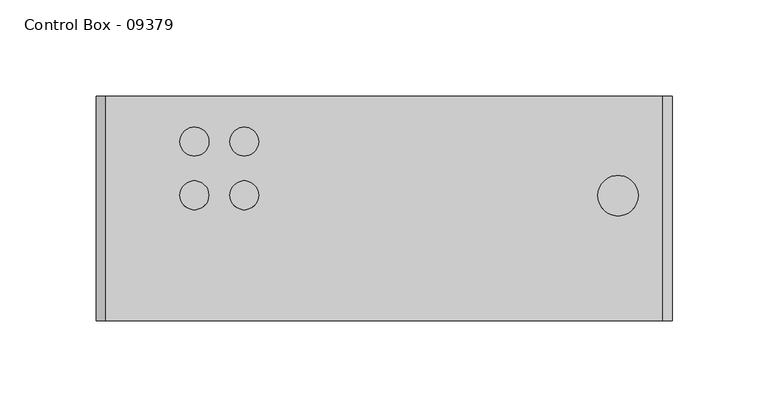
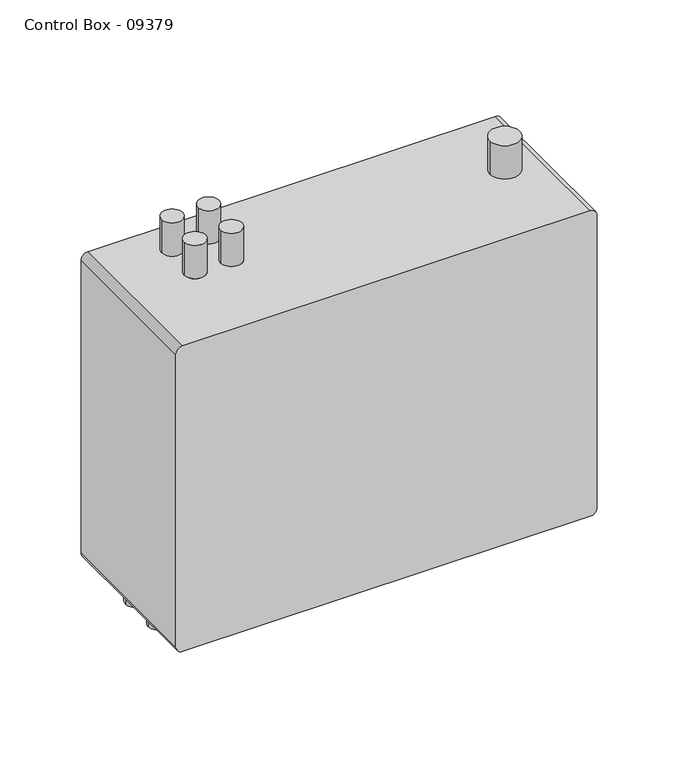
"""IFC4 building model written with IfcOpenShell, lengths in millimetres: flow terminal geometry, Plumbing Fixtures_Sensor_Thornthwaite_Rada Pulse Control Box : Control Box - 09379."""

from ifc_helpers import new_model, si_unit, frame, origin, place, context, project, spatial, circle_curve, source, transform, mapped, element, save
from ifc_brep_helpers import plane_surface, cylinder_surface, advanced_brep


def control_box_09379_0299824e(model_context):
    return source(origin(), model_context, "Body", "AdvancedBrep", [
        advanced_brep(
        [(145.0, -83.0, 1055.0), (-145.0, -83.0, 1055.0), (-150.0, -83.0, 1050.0), (-150.0, -83.0, 830.0), (-145.0, -83.0, 825.0), (145.0, -83.0, 825.0), (150.0, -83.0, 830.0), (150.0, -83.0, 1050.0), (145.0, 34.0, 1055.0), (150.0, 34.0, 1050.0), (150.0, 34.0, 830.0), (145.0, 34.0, 825.0), (-145.0, 34.0, 825.0), (-150.0, 34.0, 830.0), (-150.0, 34.0, 1050.0), (-145.0, 34.0, 1055.0), (-106.3147785, 10.266622, 1055.0), (-91.2251955, 10.266622, 1055.0), (-80.269987, 10.266622, 1055.0), (-65.269987, 10.266622, 1055.0), (-106.269987, -17.716321, 1055.0), (-91.269987, -17.716321, 1055.0), (-80.269987, -17.716321, 1055.0), (-65.269987, -17.716321, 1055.0), (111.37646, -17.899742, 1055.0), (132.37646, -17.899742, 1055.0), (-117.392513, 9.617491, 825.0), (-132.392513, 9.617491, 825.0), (-65.392513, 9.617491, 825.0), (-80.392513, 9.617491, 825.0), (-39.392513, 9.617491, 825.0), (-54.392513, 9.617491, 825.0), (-13.392513, 9.617491, 825.0), (-28.392513, 9.617491, 825.0), (-91.392513, 9.617491, 825.0), (-106.392513, 9.617491, 825.0), (-117.392513, -18.365452, 825.0), (-132.392513, -18.365452, 825.0), (-65.392513, -18.365452, 825.0), (-80.392513, -18.365452, 825.0), (-39.392513, -18.365452, 825.0), (-54.392513, -18.365452, 825.0), (-13.392513, -18.365452, 825.0), (-28.392513, -18.365452, 825.0), (-91.392513, -18.365452, 825.0), (-106.392513, -18.365452, 825.0), (131.907487, 9.617491, 825.0), (116.907487, 9.617491, 825.0), (79.907487, 9.617491, 825.0), (64.907487, 9.617491, 825.0), (53.907487, 9.617491, 825.0), (38.907487, 9.617491, 825.0), (27.907487, 9.617491, 825.0), (12.907487, 9.617491, 825.0), (105.907487, 9.617491, 825.0), (90.907487, 9.617491, 825.0), (131.907487, -18.365452, 825.0), (116.907487, -18.365452, 825.0), (79.907487, -18.365452, 825.0), (64.907487, -18.365452, 825.0), (53.907487, -18.365452, 825.0), (38.907487, -18.365452, 825.0), (27.907487, -18.365452, 825.0), (12.907487, -18.365452, 825.0), (105.907487, -18.365452, 825.0), (90.907487, -18.365452, 825.0), (-91.2251955, 10.266622, 1080.0), (-106.3147785, 10.266622, 1080.0), (-65.269987, 10.266622, 1080.0), (-80.269987, 10.266622, 1080.0), (-91.269987, -17.716321, 1080.0), (-106.269987, -17.716321, 1080.0), (-65.269987, -17.716321, 1080.0), (-80.269987, -17.716321, 1080.0), (132.37646, -17.899742, 1080.0), (111.37646, -17.899742, 1080.0), (-117.392513, 9.617491, 800.0), (-132.392513, 9.617491, 800.0), (-65.392513, 9.617491, 800.0), (-80.392513, 9.617491, 800.0), (-39.392513, 9.617491, 800.0), (-54.392513, 9.617491, 800.0), (-13.392513, 9.617491, 800.0), (-28.392513, 9.617491, 800.0), (-91.392513, 9.617491, 800.0), (-106.392513, 9.617491, 800.0), (-117.392513, -18.365452, 800.0), (-132.392513, -18.365452, 800.0), (-65.392513, -18.365452, 800.0), (-80.392513, -18.365452, 800.0), (-39.392513, -18.365452, 800.0), (-54.392513, -18.365452, 800.0), (-13.392513, -18.365452, 800.0), (-28.392513, -18.365452, 800.0), (-91.392513, -18.365452, 800.0), (-106.392513, -18.365452, 800.0), (131.907487, 9.617491, 800.0), (116.907487, 9.617491, 800.0), (79.907487, 9.617491, 800.0), (64.907487, 9.617491, 800.0), (53.907487, 9.617491, 800.0), (38.907487, 9.617491, 800.0), (27.907487, 9.617491, 800.0), (12.907487, 9.617491, 800.0), (105.907487, 9.617491, 800.0), (90.907487, 9.617491, 800.0), (131.907487, -18.365452, 800.0), (116.907487, -18.365452, 800.0), (79.907487, -18.365452, 800.0), (64.907487, -18.365452, 800.0), (53.907487, -18.365452, 800.0), (38.907487, -18.365452, 800.0), (27.907487, -18.365452, 800.0), (12.907487, -18.365452, 800.0), (105.907487, -18.365452, 800.0), (90.907487, -18.365452, 800.0)],
        [
            (0, 1),
            (1, 2, circle_curve(frame((-145.0, -83.0, 1050.0), z_axis=(0.0, -1.0, 0.0), x_axis=(-1.0, 0.0, 0.0)), 5.0)),
            (2, 3),
            (3, 4, circle_curve(frame((-145.0, -83.0, 830.0), z_axis=(0.0, -1.0, 0.0), x_axis=(-1.0, 0.0, 0.0)), 5.0)),
            (4, 5),
            (5, 6, circle_curve(frame((145.0, -83.0, 830.0), z_axis=(0.0, -1.0, 0.0), x_axis=(-1.0, 0.0, 0.0)), 5.0)),
            (6, 7),
            (7, 0, circle_curve(frame((145.0, -83.0, 1050.0), z_axis=(0.0, -1.0, 0.0), x_axis=(-1.0, 0.0, 0.0)), 5.0)),
            (8, 9, circle_curve(frame((145.0, 34.0, 1050.0), z_axis=(0.0, 1.0, 0.0), x_axis=(-1.0, 0.0, 0.0)), 5.0)),
            (9, 10),
            (10, 11, circle_curve(frame((145.0, 34.0, 830.0), z_axis=(0.0, 1.0, 0.0), x_axis=(-1.0, 0.0, 0.0)), 5.0)),
            (11, 12),
            (12, 13, circle_curve(frame((-145.0, 34.0, 830.0), z_axis=(0.0, 1.0, 0.0), x_axis=(-1.0, 0.0, 0.0)), 5.0)),
            (13, 14),
            (14, 15, circle_curve(frame((-145.0, 34.0, 1050.0), z_axis=(0.0, 1.0, 0.0), x_axis=(-1.0, 0.0, 0.0)), 5.0)),
            (15, 8),
            (0, 8),
            (15, 1),
            (16, 17, circle_curve(frame((-98.769987, 10.266622, 1055.0), z_axis=(0.0, 0.0, -1.0), x_axis=(-1.0, 0.0, 0.0)), 7.5447915)),
            (17, 16, circle_curve(frame((-98.769987, 10.266622, 1055.0), z_axis=(0.0, 0.0, -1.0), x_axis=(-1.0, 0.0, 0.0)), 7.5447915)),
            (18, 19, circle_curve(frame((-72.769987, 10.266622, 1055.0), z_axis=(0.0, 0.0, -1.0), x_axis=(-1.0, 0.0, 0.0)), 7.5)),
            (19, 18, circle_curve(frame((-72.769987, 10.266622, 1055.0), z_axis=(0.0, 0.0, -1.0), x_axis=(-1.0, 0.0, 0.0)), 7.5)),
            (20, 21, circle_curve(frame((-98.769987, -17.716321, 1055.0), z_axis=(0.0, 0.0, -1.0), x_axis=(-1.0, 0.0, 0.0)), 7.5)),
            (21, 20, circle_curve(frame((-98.769987, -17.716321, 1055.0), z_axis=(0.0, 0.0, -1.0), x_axis=(-1.0, 0.0, 0.0)), 7.5)),
            (22, 23, circle_curve(frame((-72.769987, -17.716321, 1055.0), z_axis=(0.0, 0.0, -1.0), x_axis=(-1.0, 0.0, 0.0)), 7.5)),
            (23, 22, circle_curve(frame((-72.769987, -17.716321, 1055.0), z_axis=(0.0, 0.0, -1.0), x_axis=(-1.0, 0.0, 0.0)), 7.5)),
            (24, 25, circle_curve(frame((121.87646, -17.899742, 1055.0), z_axis=(0.0, 0.0, -1.0), x_axis=(-1.0, 0.0, 0.0)), 10.5)),
            (25, 24, circle_curve(frame((121.87646, -17.899742, 1055.0), z_axis=(0.0, 0.0, -1.0), x_axis=(-1.0, 0.0, 0.0)), 10.5)),
            (14, 2),
            (13, 3),
            (12, 4),
            (11, 5),
            (26, 27, circle_curve(frame((-124.892513, 9.617491, 825.0), z_axis=(0.0, 0.0, 1.0), x_axis=(-1.0, 0.0, 0.0)), 7.5)),
            (27, 26, circle_curve(frame((-124.892513, 9.617491, 825.0), z_axis=(0.0, 0.0, 1.0), x_axis=(-1.0, 0.0, 0.0)), 7.5)),
            (28, 29, circle_curve(frame((-72.892513, 9.617491, 825.0), z_axis=(0.0, 0.0, 1.0), x_axis=(-1.0, 0.0, 0.0)), 7.5)),
            (29, 28, circle_curve(frame((-72.892513, 9.617491, 825.0), z_axis=(0.0, 0.0, 1.0), x_axis=(-1.0, 0.0, 0.0)), 7.5)),
            (30, 31, circle_curve(frame((-46.892513, 9.617491, 825.0), z_axis=(0.0, 0.0, 1.0), x_axis=(-1.0, 0.0, 0.0)), 7.5)),
            (31, 30, circle_curve(frame((-46.892513, 9.617491, 825.0), z_axis=(0.0, 0.0, 1.0), x_axis=(-1.0, 0.0, 0.0)), 7.5)),
            (32, 33, circle_curve(frame((-20.892513, 9.617491, 825.0), z_axis=(0.0, 0.0, 1.0), x_axis=(-1.0, 0.0, 0.0)), 7.5)),
            (33, 32, circle_curve(frame((-20.892513, 9.617491, 825.0), z_axis=(0.0, 0.0, 1.0), x_axis=(-1.0, 0.0, 0.0)), 7.5)),
            (34, 35, circle_curve(frame((-98.892513, 9.617491, 825.0), z_axis=(0.0, 0.0, 1.0), x_axis=(-1.0, 0.0, 0.0)), 7.5)),
            (35, 34, circle_curve(frame((-98.892513, 9.617491, 825.0), z_axis=(0.0, 0.0, 1.0), x_axis=(-1.0, 0.0, 0.0)), 7.5)),
            (36, 37, circle_curve(frame((-124.892513, -18.365452, 825.0), z_axis=(0.0, 0.0, 1.0), x_axis=(-1.0, 0.0, 0.0)), 7.5)),
            (37, 36, circle_curve(frame((-124.892513, -18.365452, 825.0), z_axis=(0.0, 0.0, 1.0), x_axis=(-1.0, 0.0, 0.0)), 7.5)),
            (38, 39, circle_curve(frame((-72.892513, -18.365452, 825.0), z_axis=(0.0, 0.0, 1.0), x_axis=(-1.0, 0.0, 0.0)), 7.5)),
            (39, 38, circle_curve(frame((-72.892513, -18.365452, 825.0), z_axis=(0.0, 0.0, 1.0), x_axis=(-1.0, 0.0, 0.0)), 7.5)),
            (40, 41, circle_curve(frame((-46.892513, -18.365452, 825.0), z_axis=(0.0, 0.0, 1.0), x_axis=(-1.0, 0.0, 0.0)), 7.5)),
            (41, 40, circle_curve(frame((-46.892513, -18.365452, 825.0), z_axis=(0.0, 0.0, 1.0), x_axis=(-1.0, 0.0, 0.0)), 7.5)),
            (42, 43, circle_curve(frame((-20.892513, -18.365452, 825.0), z_axis=(0.0, 0.0, 1.0), x_axis=(-1.0, 0.0, 0.0)), 7.5)),
            (43, 42, circle_curve(frame((-20.892513, -18.365452, 825.0), z_axis=(0.0, 0.0, 1.0), x_axis=(-1.0, 0.0, 0.0)), 7.5)),
            (44, 45, circle_curve(frame((-98.892513, -18.365452, 825.0), z_axis=(0.0, 0.0, 1.0), x_axis=(-1.0, 0.0, 0.0)), 7.5)),
            (45, 44, circle_curve(frame((-98.892513, -18.365452, 825.0), z_axis=(0.0, 0.0, 1.0), x_axis=(-1.0, 0.0, 0.0)), 7.5)),
            (46, 47, circle_curve(frame((124.407487, 9.617491, 825.0), z_axis=(0.0, 0.0, 1.0), x_axis=(-1.0, 0.0, 0.0)), 7.5)),
            (47, 46, circle_curve(frame((124.407487, 9.617491, 825.0), z_axis=(0.0, 0.0, 1.0), x_axis=(-1.0, 0.0, 0.0)), 7.5)),
            (48, 49, circle_curve(frame((72.407487, 9.617491, 825.0), z_axis=(0.0, 0.0, 1.0), x_axis=(-1.0, 0.0, 0.0)), 7.5)),
            (49, 48, circle_curve(frame((72.407487, 9.617491, 825.0), z_axis=(0.0, 0.0, 1.0), x_axis=(-1.0, 0.0, 0.0)), 7.5)),
            (50, 51, circle_curve(frame((46.407487, 9.617491, 825.0), z_axis=(0.0, 0.0, 1.0), x_axis=(-1.0, 0.0, 0.0)), 7.5)),
            (51, 50, circle_curve(frame((46.407487, 9.617491, 825.0), z_axis=(0.0, 0.0, 1.0), x_axis=(-1.0, 0.0, 0.0)), 7.5)),
            (52, 53, circle_curve(frame((20.407487, 9.617491, 825.0), z_axis=(0.0, 0.0, 1.0), x_axis=(-1.0, 0.0, 0.0)), 7.5)),
            (53, 52, circle_curve(frame((20.407487, 9.617491, 825.0), z_axis=(0.0, 0.0, 1.0), x_axis=(-1.0, 0.0, 0.0)), 7.5)),
            (54, 55, circle_curve(frame((98.407487, 9.617491, 825.0), z_axis=(0.0, 0.0, 1.0), x_axis=(-1.0, 0.0, 0.0)), 7.5)),
            (55, 54, circle_curve(frame((98.407487, 9.617491, 825.0), z_axis=(0.0, 0.0, 1.0), x_axis=(-1.0, 0.0, 0.0)), 7.5)),
            (56, 57, circle_curve(frame((124.407487, -18.365452, 825.0), z_axis=(0.0, 0.0, 1.0), x_axis=(-1.0, 0.0, 0.0)), 7.5)),
            (57, 56, circle_curve(frame((124.407487, -18.365452, 825.0), z_axis=(0.0, 0.0, 1.0), x_axis=(-1.0, 0.0, 0.0)), 7.5)),
            (58, 59, circle_curve(frame((72.407487, -18.365452, 825.0), z_axis=(0.0, 0.0, 1.0), x_axis=(-1.0, 0.0, 0.0)), 7.5)),
            (59, 58, circle_curve(frame((72.407487, -18.365452, 825.0), z_axis=(0.0, 0.0, 1.0), x_axis=(-1.0, 0.0, 0.0)), 7.5)),
            (60, 61, circle_curve(frame((46.407487, -18.365452, 825.0), z_axis=(0.0, 0.0, 1.0), x_axis=(-1.0, 0.0, 0.0)), 7.5)),
            (61, 60, circle_curve(frame((46.407487, -18.365452, 825.0), z_axis=(0.0, 0.0, 1.0), x_axis=(-1.0, 0.0, 0.0)), 7.5)),
            (62, 63, circle_curve(frame((20.407487, -18.365452, 825.0), z_axis=(0.0, 0.0, 1.0), x_axis=(-1.0, 0.0, 0.0)), 7.5)),
            (63, 62, circle_curve(frame((20.407487, -18.365452, 825.0), z_axis=(0.0, 0.0, 1.0), x_axis=(-1.0, 0.0, 0.0)), 7.5)),
            (64, 65, circle_curve(frame((98.407487, -18.365452, 825.0), z_axis=(0.0, 0.0, 1.0), x_axis=(-1.0, 0.0, 0.0)), 7.5)),
            (65, 64, circle_curve(frame((98.407487, -18.365452, 825.0), z_axis=(0.0, 0.0, 1.0), x_axis=(-1.0, 0.0, 0.0)), 7.5)),
            (10, 6),
            (9, 7),
            (66, 67, circle_curve(frame((-98.769987, 10.266622, 1080.0), z_axis=(0.0, 0.0, 1.0), x_axis=(-1.0, 0.0, 0.0)), 7.5447915)),
            (67, 66, circle_curve(frame((-98.769987, 10.266622, 1080.0), z_axis=(0.0, 0.0, 1.0), x_axis=(-1.0, 0.0, 0.0)), 7.5447915)),
            (68, 69, circle_curve(frame((-72.769987, 10.266622, 1080.0), z_axis=(0.0, 0.0, 1.0), x_axis=(-1.0, 0.0, 0.0)), 7.5)),
            (69, 68, circle_curve(frame((-72.769987, 10.266622, 1080.0), z_axis=(0.0, 0.0, 1.0), x_axis=(-1.0, 0.0, 0.0)), 7.5)),
            (70, 71, circle_curve(frame((-98.769987, -17.716321, 1080.0), z_axis=(0.0, 0.0, 1.0), x_axis=(-1.0, 0.0, 0.0)), 7.5)),
            (71, 70, circle_curve(frame((-98.769987, -17.716321, 1080.0), z_axis=(0.0, 0.0, 1.0), x_axis=(-1.0, 0.0, 0.0)), 7.5)),
            (72, 73, circle_curve(frame((-72.769987, -17.716321, 1080.0), z_axis=(0.0, 0.0, 1.0), x_axis=(-1.0, 0.0, 0.0)), 7.5)),
            (73, 72, circle_curve(frame((-72.769987, -17.716321, 1080.0), z_axis=(0.0, 0.0, 1.0), x_axis=(-1.0, 0.0, 0.0)), 7.5)),
            (74, 75, circle_curve(frame((121.87646, -17.899742, 1080.0), z_axis=(0.0, 0.0, 1.0), x_axis=(-1.0, 0.0, 0.0)), 10.5)),
            (75, 74, circle_curve(frame((121.87646, -17.899742, 1080.0), z_axis=(0.0, 0.0, 1.0), x_axis=(-1.0, 0.0, 0.0)), 10.5)),
            (66, 17),
            (16, 67),
            (68, 19),
            (18, 69),
            (70, 21),
            (20, 71),
            (72, 23),
            (22, 73),
            (74, 25),
            (24, 75),
            (76, 77, circle_curve(frame((-124.892513, 9.617491, 800.0), z_axis=(0.0, 0.0, -1.0), x_axis=(-1.0, 0.0, 0.0)), 7.5)),
            (77, 76, circle_curve(frame((-124.892513, 9.617491, 800.0), z_axis=(0.0, 0.0, -1.0), x_axis=(-1.0, 0.0, 0.0)), 7.5)),
            (78, 79, circle_curve(frame((-72.892513, 9.617491, 800.0), z_axis=(0.0, 0.0, -1.0), x_axis=(-1.0, 0.0, 0.0)), 7.5)),
            (79, 78, circle_curve(frame((-72.892513, 9.617491, 800.0), z_axis=(0.0, 0.0, -1.0), x_axis=(-1.0, 0.0, 0.0)), 7.5)),
            (80, 81, circle_curve(frame((-46.892513, 9.617491, 800.0), z_axis=(0.0, 0.0, -1.0), x_axis=(-1.0, 0.0, 0.0)), 7.5)),
            (81, 80, circle_curve(frame((-46.892513, 9.617491, 800.0), z_axis=(0.0, 0.0, -1.0), x_axis=(-1.0, 0.0, 0.0)), 7.5)),
            (82, 83, circle_curve(frame((-20.892513, 9.617491, 800.0), z_axis=(0.0, 0.0, -1.0), x_axis=(-1.0, 0.0, 0.0)), 7.5)),
            (83, 82, circle_curve(frame((-20.892513, 9.617491, 800.0), z_axis=(0.0, 0.0, -1.0), x_axis=(-1.0, 0.0, 0.0)), 7.5)),
            (84, 85, circle_curve(frame((-98.892513, 9.617491, 800.0), z_axis=(0.0, 0.0, -1.0), x_axis=(-1.0, 0.0, 0.0)), 7.5)),
            (85, 84, circle_curve(frame((-98.892513, 9.617491, 800.0), z_axis=(0.0, 0.0, -1.0), x_axis=(-1.0, 0.0, 0.0)), 7.5)),
            (86, 87, circle_curve(frame((-124.892513, -18.365452, 800.0), z_axis=(0.0, 0.0, -1.0), x_axis=(-1.0, 0.0, 0.0)), 7.5)),
            (87, 86, circle_curve(frame((-124.892513, -18.365452, 800.0), z_axis=(0.0, 0.0, -1.0), x_axis=(-1.0, 0.0, 0.0)), 7.5)),
            (88, 89, circle_curve(frame((-72.892513, -18.365452, 800.0), z_axis=(0.0, 0.0, -1.0), x_axis=(-1.0, 0.0, 0.0)), 7.5)),
            (89, 88, circle_curve(frame((-72.892513, -18.365452, 800.0), z_axis=(0.0, 0.0, -1.0), x_axis=(-1.0, 0.0, 0.0)), 7.5)),
            (90, 91, circle_curve(frame((-46.892513, -18.365452, 800.0), z_axis=(0.0, 0.0, -1.0), x_axis=(-1.0, 0.0, 0.0)), 7.5)),
            (91, 90, circle_curve(frame((-46.892513, -18.365452, 800.0), z_axis=(0.0, 0.0, -1.0), x_axis=(-1.0, 0.0, 0.0)), 7.5)),
            (92, 93, circle_curve(frame((-20.892513, -18.365452, 800.0), z_axis=(0.0, 0.0, -1.0), x_axis=(-1.0, 0.0, 0.0)), 7.5)),
            (93, 92, circle_curve(frame((-20.892513, -18.365452, 800.0), z_axis=(0.0, 0.0, -1.0), x_axis=(-1.0, 0.0, 0.0)), 7.5)),
            (94, 95, circle_curve(frame((-98.892513, -18.365452, 800.0), z_axis=(0.0, 0.0, -1.0), x_axis=(-1.0, 0.0, 0.0)), 7.5)),
            (95, 94, circle_curve(frame((-98.892513, -18.365452, 800.0), z_axis=(0.0, 0.0, -1.0), x_axis=(-1.0, 0.0, 0.0)), 7.5)),
            (96, 97, circle_curve(frame((124.407487, 9.617491, 800.0), z_axis=(0.0, 0.0, -1.0), x_axis=(-1.0, 0.0, 0.0)), 7.5)),
            (97, 96, circle_curve(frame((124.407487, 9.617491, 800.0), z_axis=(0.0, 0.0, -1.0), x_axis=(-1.0, 0.0, 0.0)), 7.5)),
            (98, 99, circle_curve(frame((72.407487, 9.617491, 800.0), z_axis=(0.0, 0.0, -1.0), x_axis=(-1.0, 0.0, 0.0)), 7.5)),
            (99, 98, circle_curve(frame((72.407487, 9.617491, 800.0), z_axis=(0.0, 0.0, -1.0), x_axis=(-1.0, 0.0, 0.0)), 7.5)),
            (100, 101, circle_curve(frame((46.407487, 9.617491, 800.0), z_axis=(0.0, 0.0, -1.0), x_axis=(-1.0, 0.0, 0.0)), 7.5)),
            (101, 100, circle_curve(frame((46.407487, 9.617491, 800.0), z_axis=(0.0, 0.0, -1.0), x_axis=(-1.0, 0.0, 0.0)), 7.5)),
            (102, 103, circle_curve(frame((20.407487, 9.617491, 800.0), z_axis=(0.0, 0.0, -1.0), x_axis=(-1.0, 0.0, 0.0)), 7.5)),
            (103, 102, circle_curve(frame((20.407487, 9.617491, 800.0), z_axis=(0.0, 0.0, -1.0), x_axis=(-1.0, 0.0, 0.0)), 7.5)),
            (104, 105, circle_curve(frame((98.407487, 9.617491, 800.0), z_axis=(0.0, 0.0, -1.0), x_axis=(-1.0, 0.0, 0.0)), 7.5)),
            (105, 104, circle_curve(frame((98.407487, 9.617491, 800.0), z_axis=(0.0, 0.0, -1.0), x_axis=(-1.0, 0.0, 0.0)), 7.5)),
            (106, 107, circle_curve(frame((124.407487, -18.365452, 800.0), z_axis=(0.0, 0.0, -1.0), x_axis=(-1.0, 0.0, 0.0)), 7.5)),
            (107, 106, circle_curve(frame((124.407487, -18.365452, 800.0), z_axis=(0.0, 0.0, -1.0), x_axis=(-1.0, 0.0, 0.0)), 7.5)),
            (108, 109, circle_curve(frame((72.407487, -18.365452, 800.0), z_axis=(0.0, 0.0, -1.0), x_axis=(-1.0, 0.0, 0.0)), 7.5)),
            (109, 108, circle_curve(frame((72.407487, -18.365452, 800.0), z_axis=(0.0, 0.0, -1.0), x_axis=(-1.0, 0.0, 0.0)), 7.5)),
            (110, 111, circle_curve(frame((46.407487, -18.365452, 800.0), z_axis=(0.0, 0.0, -1.0), x_axis=(-1.0, 0.0, 0.0)), 7.5)),
            (111, 110, circle_curve(frame((46.407487, -18.365452, 800.0), z_axis=(0.0, 0.0, -1.0), x_axis=(-1.0, 0.0, 0.0)), 7.5)),
            (112, 113, circle_curve(frame((20.407487, -18.365452, 800.0), z_axis=(0.0, 0.0, -1.0), x_axis=(-1.0, 0.0, 0.0)), 7.5)),
            (113, 112, circle_curve(frame((20.407487, -18.365452, 800.0), z_axis=(0.0, 0.0, -1.0), x_axis=(-1.0, 0.0, 0.0)), 7.5)),
            (114, 115, circle_curve(frame((98.407487, -18.365452, 800.0), z_axis=(0.0, 0.0, -1.0), x_axis=(-1.0, 0.0, 0.0)), 7.5)),
            (115, 114, circle_curve(frame((98.407487, -18.365452, 800.0), z_axis=(0.0, 0.0, -1.0), x_axis=(-1.0, 0.0, 0.0)), 7.5)),
            (77, 27),
            (26, 76),
            (79, 29),
            (28, 78),
            (81, 31),
            (30, 80),
            (83, 33),
            (32, 82),
            (85, 35),
            (34, 84),
            (87, 37),
            (36, 86),
            (89, 39),
            (38, 88),
            (91, 41),
            (40, 90),
            (93, 43),
            (42, 92),
            (95, 45),
            (44, 94),
            (97, 47),
            (46, 96),
            (99, 49),
            (48, 98),
            (101, 51),
            (50, 100),
            (103, 53),
            (52, 102),
            (105, 55),
            (54, 104),
            (107, 57),
            (56, 106),
            (109, 59),
            (58, 108),
            (111, 61),
            (60, 110),
            (113, 63),
            (62, 112),
            (115, 65),
            (64, 114),
        ],
        [
            plane_surface(frame((140.0, -83.0, 1050.0), z_axis=(0.0, -1.0, 0.0), x_axis=(0.0, 0.0, -1.0))),
            plane_surface(frame((140.0, 34.0, 1050.0), z_axis=(0.0, 1.0, 0.0), x_axis=(0.0, 0.0, 1.0))),
            plane_surface(frame((-145.0, 34.0, 1055.0), z_axis=(0.0, 0.0, 1.0), x_axis=(0.0, -1.0, 0.0))),
            cylinder_surface(frame((-145.0, -83.0, 1050.0), z_axis=(0.0, 1.0, 0.0), x_axis=(-1.0, 0.0, 0.0)), 5.0),
            plane_surface(frame((-150.0, 34.0, 830.0), z_axis=(-1.0, 0.0, 0.0), x_axis=(0.0, -1.0, 0.0))),
            cylinder_surface(frame((-145.0, -83.0, 830.0), z_axis=(0.0, 1.0, 0.0), x_axis=(-1.0, 0.0, 0.0)), 5.0),
            plane_surface(frame((145.0, 34.0, 825.0), z_axis=(0.0, 0.0, -1.0), x_axis=(0.0, -1.0, 0.0))),
            cylinder_surface(frame((145.0, -83.0, 830.0), z_axis=(0.0, 1.0, 0.0), x_axis=(-1.0, 0.0, 0.0)), 5.0),
            plane_surface(frame((150.0, 34.0, 1050.0), z_axis=(1.0, 0.0, 0.0), x_axis=(0.0, -1.0, 0.0))),
            cylinder_surface(frame((145.0, -83.0, 1050.0), z_axis=(0.0, 1.0, 0.0), x_axis=(-1.0, 0.0, 0.0)), 5.0),
            plane_surface(frame((-106.3147785, 10.266622, 1080.0), z_axis=(0.0, 0.0, 1.0), x_axis=(0.0, -1.0, 0.0))),
            cylinder_surface(frame((-98.769987, 10.266622, 1055.0), z_axis=(0.0, 0.0, 1.0), x_axis=(-1.0, 0.0, 0.0)), 7.5447915),
            cylinder_surface(frame((-72.769987, 10.266622, 1055.0), z_axis=(0.0, 0.0, 1.0), x_axis=(-1.0, 0.0, 0.0)), 7.5),
            cylinder_surface(frame((-98.769987, -17.716321, 1055.0), z_axis=(0.0, 0.0, 1.0), x_axis=(-1.0, 0.0, 0.0)), 7.5),
            cylinder_surface(frame((-72.769987, -17.716321, 1055.0), z_axis=(0.0, 0.0, 1.0), x_axis=(-1.0, 0.0, 0.0)), 7.5),
            cylinder_surface(frame((121.87646, -17.899742, 1055.0), z_axis=(0.0, 0.0, 1.0), x_axis=(-1.0, 0.0, 0.0)), 10.5),
            plane_surface(frame((-132.392513, 9.617491, 800.0), z_axis=(0.0, 0.0, -1.0), x_axis=(0.0, 1.0, 0.0))),
            cylinder_surface(frame((-124.892513, 9.617491, 800.0), z_axis=(0.0, 0.0, 1.0), x_axis=(-1.0, 0.0, 0.0)), 7.5),
            cylinder_surface(frame((-72.892513, 9.617491, 800.0), z_axis=(0.0, 0.0, 1.0), x_axis=(-1.0, 0.0, 0.0)), 7.5),
            cylinder_surface(frame((-46.892513, 9.617491, 800.0), z_axis=(0.0, 0.0, 1.0), x_axis=(-1.0, 0.0, 0.0)), 7.5),
            cylinder_surface(frame((-20.892513, 9.617491, 800.0), z_axis=(0.0, 0.0, 1.0), x_axis=(-1.0, 0.0, 0.0)), 7.5),
            cylinder_surface(frame((-98.892513, 9.617491, 800.0), z_axis=(0.0, 0.0, 1.0), x_axis=(-1.0, 0.0, 0.0)), 7.5),
            cylinder_surface(frame((-124.892513, -18.365452, 800.0), z_axis=(0.0, 0.0, 1.0), x_axis=(-1.0, 0.0, 0.0)), 7.5),
            cylinder_surface(frame((-72.892513, -18.365452, 800.0), z_axis=(0.0, 0.0, 1.0), x_axis=(-1.0, 0.0, 0.0)), 7.5),
            cylinder_surface(frame((-46.892513, -18.365452, 800.0), z_axis=(0.0, 0.0, 1.0), x_axis=(-1.0, 0.0, 0.0)), 7.5),
            cylinder_surface(frame((-20.892513, -18.365452, 800.0), z_axis=(0.0, 0.0, 1.0), x_axis=(-1.0, 0.0, 0.0)), 7.5),
            cylinder_surface(frame((-98.892513, -18.365452, 800.0), z_axis=(0.0, 0.0, 1.0), x_axis=(-1.0, 0.0, 0.0)), 7.5),
            cylinder_surface(frame((124.407487, 9.617491, 800.0), z_axis=(0.0, 0.0, 1.0), x_axis=(-1.0, 0.0, 0.0)), 7.5),
            cylinder_surface(frame((72.407487, 9.617491, 800.0), z_axis=(0.0, 0.0, 1.0), x_axis=(-1.0, 0.0, 0.0)), 7.5),
            cylinder_surface(frame((46.407487, 9.617491, 800.0), z_axis=(0.0, 0.0, 1.0), x_axis=(-1.0, 0.0, 0.0)), 7.5),
            cylinder_surface(frame((20.407487, 9.617491, 800.0), z_axis=(0.0, 0.0, 1.0), x_axis=(-1.0, 0.0, 0.0)), 7.5),
            cylinder_surface(frame((98.407487, 9.617491, 800.0), z_axis=(0.0, 0.0, 1.0), x_axis=(-1.0, 0.0, 0.0)), 7.5),
            cylinder_surface(frame((124.407487, -18.365452, 800.0), z_axis=(0.0, 0.0, 1.0), x_axis=(-1.0, 0.0, 0.0)), 7.5),
            cylinder_surface(frame((72.407487, -18.365452, 800.0), z_axis=(0.0, 0.0, 1.0), x_axis=(-1.0, 0.0, 0.0)), 7.5),
            cylinder_surface(frame((46.407487, -18.365452, 800.0), z_axis=(0.0, 0.0, 1.0), x_axis=(-1.0, 0.0, 0.0)), 7.5),
            cylinder_surface(frame((20.407487, -18.365452, 800.0), z_axis=(0.0, 0.0, 1.0), x_axis=(-1.0, 0.0, 0.0)), 7.5),
            cylinder_surface(frame((98.407487, -18.365452, 800.0), z_axis=(0.0, 0.0, 1.0), x_axis=(-1.0, 0.0, 0.0)), 7.5),
        ],
        [
            (0, [[1, 2, 3, 4, 5, 6, 7, 8]]),
            (1, [[9, 10, 11, 12, 13, 14, 15, 16]]),
            (2, [[-1, 17, -16, 18], [19, 20], [21, 22], [23, 24], [25, 26], [27, 28]]),
            (3, [[-2, -18, -15, 29]]),
            (4, [[-3, -29, -14, 30]]),
            (5, [[-4, -30, -13, 31]]),
            (6, [[-5, -31, -12, 32], [33, 34], [35, 36], [37, 38], [39, 40], [41, 42], [43, 44], [45, 46], [47, 48], [49, 50], [51, 52], [53, 54], [55, 56], [57, 58], [59, 60], [61, 62], [63, 64], [65, 66], [67, 68], [69, 70], [71, 72]]),
            (7, [[-6, -32, -11, 73]]),
            (8, [[-7, -73, -10, 74]]),
            (9, [[-8, -74, -9, -17]]),
            (10, [[75, 76]]),
            (10, [[77, 78]]),
            (10, [[79, 80]]),
            (10, [[81, 82]]),
            (10, [[83, 84]]),
            (11, [[-75, 85, -19, 86]]),
            (11, [[-76, -86, -20, -85]]),
            (12, [[-77, 87, -21, 88]]),
            (12, [[-78, -88, -22, -87]]),
            (13, [[-79, 89, -23, 90]]),
            (13, [[-80, -90, -24, -89]]),
            (14, [[-81, 91, -25, 92]]),
            (14, [[-82, -92, -26, -91]]),
            (15, [[-83, 93, -27, 94]]),
            (15, [[-84, -94, -28, -93]]),
            (16, [[95, 96]]),
            (16, [[97, 98]]),
            (16, [[99, 100]]),
            (16, [[101, 102]]),
            (16, [[103, 104]]),
            (16, [[105, 106]]),
            (16, [[107, 108]]),
            (16, [[109, 110]]),
            (16, [[111, 112]]),
            (16, [[113, 114]]),
            (16, [[115, 116]]),
            (16, [[117, 118]]),
            (16, [[119, 120]]),
            (16, [[121, 122]]),
            (16, [[123, 124]]),
            (16, [[125, 126]]),
            (16, [[127, 128]]),
            (16, [[129, 130]]),
            (16, [[131, 132]]),
            (16, [[133, 134]]),
            (17, [[-96, 135, -33, 136]]),
            (17, [[-95, -136, -34, -135]]),
            (18, [[-98, 137, -35, 138]]),
            (18, [[-97, -138, -36, -137]]),
            (19, [[-100, 139, -37, 140]]),
            (19, [[-99, -140, -38, -139]]),
            (20, [[-102, 141, -39, 142]]),
            (20, [[-101, -142, -40, -141]]),
            (21, [[-104, 143, -41, 144]]),
            (21, [[-103, -144, -42, -143]]),
            (22, [[-106, 145, -43, 146]]),
            (22, [[-105, -146, -44, -145]]),
            (23, [[-108, 147, -45, 148]]),
            (23, [[-107, -148, -46, -147]]),
            (24, [[-110, 149, -47, 150]]),
            (24, [[-109, -150, -48, -149]]),
            (25, [[-112, 151, -49, 152]]),
            (25, [[-111, -152, -50, -151]]),
            (26, [[-114, 153, -51, 154]]),
            (26, [[-113, -154, -52, -153]]),
            (27, [[-116, 155, -53, 156]]),
            (27, [[-115, -156, -54, -155]]),
            (28, [[-118, 157, -55, 158]]),
            (28, [[-117, -158, -56, -157]]),
            (29, [[-120, 159, -57, 160]]),
            (29, [[-119, -160, -58, -159]]),
            (30, [[-122, 161, -59, 162]]),
            (30, [[-121, -162, -60, -161]]),
            (31, [[-124, 163, -61, 164]]),
            (31, [[-123, -164, -62, -163]]),
            (32, [[-126, 165, -63, 166]]),
            (32, [[-125, -166, -64, -165]]),
            (33, [[-128, 167, -65, 168]]),
            (33, [[-127, -168, -66, -167]]),
            (34, [[-130, 169, -67, 170]]),
            (34, [[-129, -170, -68, -169]]),
            (35, [[-132, 171, -69, 172]]),
            (35, [[-131, -172, -70, -171]]),
            (36, [[-134, 173, -71, 174]]),
            (36, [[-133, -174, -72, -173]]),
        ],
    ),
    ])


if __name__ == "__main__":
    model = new_model("IFC4")
    model_context = context("Model", 3, world=origin())
    ifc_project = project(units=[si_unit("LENGTHUNIT", "METRE", prefix="MILLI")], contexts=[model_context])
    site = spatial("IfcSite", under=ifc_project)
    building = spatial("IfcBuilding", under=site)
    placement = place(None, origin())
    control_box_09379_shape = control_box_09379_0299824e(model_context)
    element("IfcFlowTerminal", 1, ObjectType="Plumbing Fixtures_Sensor_Thornthwaite_Rada Pulse Control Box : Control Box - 09379", at=placement, inside=building, context=model_context, shape_type="MappedRepresentation", body=[
        mapped(control_box_09379_shape, transform((0.0, 0.0, 0.0), x_axis=(1.0, 0.0, 0.0), y_axis=(0.0, 1.0, 0.0), z_axis=(0.0, 0.0, 1.0))),
    ])
    save(model, "model.ifc")
